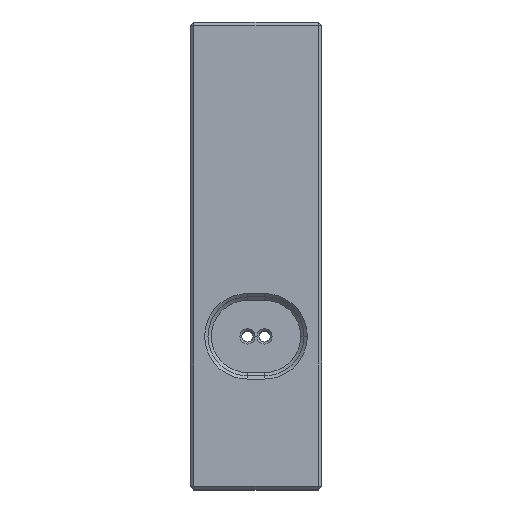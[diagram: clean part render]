
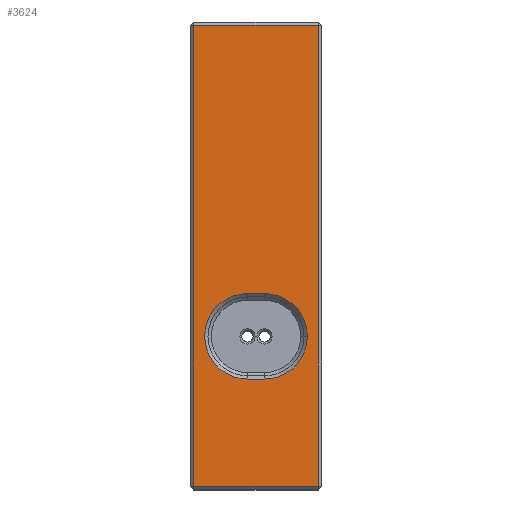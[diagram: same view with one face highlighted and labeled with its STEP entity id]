
A CAD part, top view. The second image highlights one B-rep face of the part: STEP entity #3624.
In plain terms, the highlighted planar face has unit normal (0, 0, 1).
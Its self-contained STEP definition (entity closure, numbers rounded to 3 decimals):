
#16 = EDGE_CURVE ( 'NONE', #3061, #6761, #7432, .T. ) ;
#71 = CARTESIAN_POINT ( 'NONE',  ( -8.6, -12.6, 20. ) ) ;
#184 = CARTESIAN_POINT ( 'NONE',  ( -9.1, 58., 20. ) ) ;
#193 = DIRECTION ( 'NONE',  ( 0., -1., 0. ) ) ;
#253 = ORIENTED_EDGE ( 'NONE', *, *, #398, .T. ) ;
#257 = DIRECTION ( 'NONE',  ( -1., 0., 0. ) ) ;
#317 = EDGE_CURVE ( 'NONE', #5407, #6657, #1113, .T. ) ;
#398 = EDGE_CURVE ( 'NONE', #5051, #5407, #2500, .T. ) ;
#411 = VERTEX_POINT ( 'NONE', #2154 ) ;
#509 = CARTESIAN_POINT ( 'NONE',  ( -0.4, 3.7, 20. ) ) ;
#623 = VERTEX_POINT ( 'NONE', #71 ) ;
#845 = FACE_OUTER_BOUND ( 'NONE', #5224, .T. ) ;
#946 = CARTESIAN_POINT ( 'NONE',  ( -9.1, 57.5, 20. ) ) ;
#988 = EDGE_LOOP ( 'NONE', ( #6213, #253, #2896, #4552, #5454 ) ) ;
#1018 = CARTESIAN_POINT ( 'NONE',  ( 2.2, 10.2, 20. ) ) ;
#1073 = AXIS2_PLACEMENT_3D ( 'NONE', #3188, #6167, #257 ) ;
#1096 = LINE ( 'NONE', #3972, #2383 ) ;
#1105 = CARTESIAN_POINT ( 'NONE',  ( 10.4, -12.6, 20. ) ) ;
#1113 = CIRCLE ( 'NONE', #1073, 6.5 ) ;
#1233 = CARTESIAN_POINT ( 'NONE',  ( 2.2, 16.7, 20. ) ) ;
#1257 = DIRECTION ( 'NONE',  ( 0., 1., 0. ) ) ;
#1262 = LINE ( 'NONE', #2755, #3769 ) ;
#1296 = VECTOR ( 'NONE', #1257, 1000. ) ;
#1312 = CIRCLE ( 'NONE', #2332, 6.5 ) ;
#1478 = CARTESIAN_POINT ( 'NONE',  ( -0.4, 10.2, 20. ) ) ;
#1721 = ORIENTED_EDGE ( 'NONE', *, *, #1858, .T. ) ;
#1858 = EDGE_CURVE ( 'NONE', #6761, #623, #7644, .T. ) ;
#1889 = CARTESIAN_POINT ( 'NONE',  ( -8.6, 57.5, 20. ) ) ;
#2154 = CARTESIAN_POINT ( 'NONE',  ( -0.4, 16.7, 20. ) ) ;
#2231 = FACE_BOUND ( 'NONE', #988, .T. ) ;
#2332 = AXIS2_PLACEMENT_3D ( 'NONE', #1478, #2662, #5638 ) ;
#2383 = VECTOR ( 'NONE', #2690, 1000. ) ;
#2430 = AXIS2_PLACEMENT_3D ( 'NONE', #184, #6166, #6669 ) ;
#2500 = CIRCLE ( 'NONE', #5045, 6.5 ) ;
#2587 = LINE ( 'NONE', #4739, #1296 ) ;
#2662 = DIRECTION ( 'NONE',  ( 0., 0., -1. ) ) ;
#2690 = DIRECTION ( 'NONE',  ( -1., 0., 0. ) ) ;
#2739 = DIRECTION ( 'NONE',  ( -1., 0., 0. ) ) ;
#2755 = CARTESIAN_POINT ( 'NONE',  ( -9.1, 16.7, 20. ) ) ;
#2896 = ORIENTED_EDGE ( 'NONE', *, *, #317, .T. ) ;
#2971 = ORIENTED_EDGE ( 'NONE', *, *, #6930, .T. ) ;
#3061 = VERTEX_POINT ( 'NONE', #5663 ) ;
#3188 = CARTESIAN_POINT ( 'NONE',  ( 2.2, 10.2, 20. ) ) ;
#3201 = CARTESIAN_POINT ( 'NONE',  ( 10.9, -12.6, 20. ) ) ;
#3226 = DIRECTION ( 'NONE',  ( 1., 0., 0. ) ) ;
#3285 = DIRECTION ( 'NONE',  ( 0., 0., -1. ) ) ;
#3624 = ADVANCED_FACE ( 'NONE', ( #2231, #845 ), #6091, .F. ) ;
#3683 = LINE ( 'NONE', #3201, #7224 ) ;
#3733 = CARTESIAN_POINT ( 'NONE',  ( -8.6, 58., 20. ) ) ;
#3769 = VECTOR ( 'NONE', #4488, 1000. ) ;
#3954 = ORIENTED_EDGE ( 'NONE', *, *, #16, .T. ) ;
#3972 = CARTESIAN_POINT ( 'NONE',  ( -9.1, 3.7, 20. ) ) ;
#4398 = EDGE_CURVE ( 'NONE', #4785, #411, #1312, .T. ) ;
#4488 = DIRECTION ( 'NONE',  ( 1., 0., 0. ) ) ;
#4552 = ORIENTED_EDGE ( 'NONE', *, *, #6093, .T. ) ;
#4739 = CARTESIAN_POINT ( 'NONE',  ( 10.4, 58., 20. ) ) ;
#4785 = VERTEX_POINT ( 'NONE', #509 ) ;
#4826 = VECTOR ( 'NONE', #6849, 1000. ) ;
#4969 = VERTEX_POINT ( 'NONE', #1105 ) ;
#5015 = CARTESIAN_POINT ( 'NONE',  ( 2.2, 3.7, 20. ) ) ;
#5045 = AXIS2_PLACEMENT_3D ( 'NONE', #1018, #3285, #2739 ) ;
#5051 = VERTEX_POINT ( 'NONE', #1233 ) ;
#5136 = EDGE_CURVE ( 'NONE', #4969, #3061, #2587, .T. ) ;
#5224 = EDGE_LOOP ( 'NONE', ( #2971, #6177, #3954, #1721 ) ) ;
#5407 = VERTEX_POINT ( 'NONE', #5742 ) ;
#5454 = ORIENTED_EDGE ( 'NONE', *, *, #4398, .T. ) ;
#5638 = DIRECTION ( 'NONE',  ( -1., 0., 0. ) ) ;
#5663 = CARTESIAN_POINT ( 'NONE',  ( 10.4, 57.5, 20. ) ) ;
#5742 = CARTESIAN_POINT ( 'NONE',  ( 8.7, 10.2, 20. ) ) ;
#6091 = PLANE ( 'NONE',  #2430 ) ;
#6093 = EDGE_CURVE ( 'NONE', #6657, #4785, #1096, .T. ) ;
#6166 = DIRECTION ( 'NONE',  ( 0., 0., -1. ) ) ;
#6167 = DIRECTION ( 'NONE',  ( 0., 0., -1. ) ) ;
#6177 = ORIENTED_EDGE ( 'NONE', *, *, #5136, .T. ) ;
#6213 = ORIENTED_EDGE ( 'NONE', *, *, #7692, .T. ) ;
#6347 = VECTOR ( 'NONE', #193, 1000. ) ;
#6657 = VERTEX_POINT ( 'NONE', #5015 ) ;
#6669 = DIRECTION ( 'NONE',  ( -1., 0., 0. ) ) ;
#6761 = VERTEX_POINT ( 'NONE', #1889 ) ;
#6849 = DIRECTION ( 'NONE',  ( -1., 0., 0. ) ) ;
#6930 = EDGE_CURVE ( 'NONE', #623, #4969, #3683, .T. ) ;
#7224 = VECTOR ( 'NONE', #3226, 1000. ) ;
#7432 = LINE ( 'NONE', #946, #4826 ) ;
#7644 = LINE ( 'NONE', #3733, #6347 ) ;
#7692 = EDGE_CURVE ( 'NONE', #411, #5051, #1262, .T. ) ;
